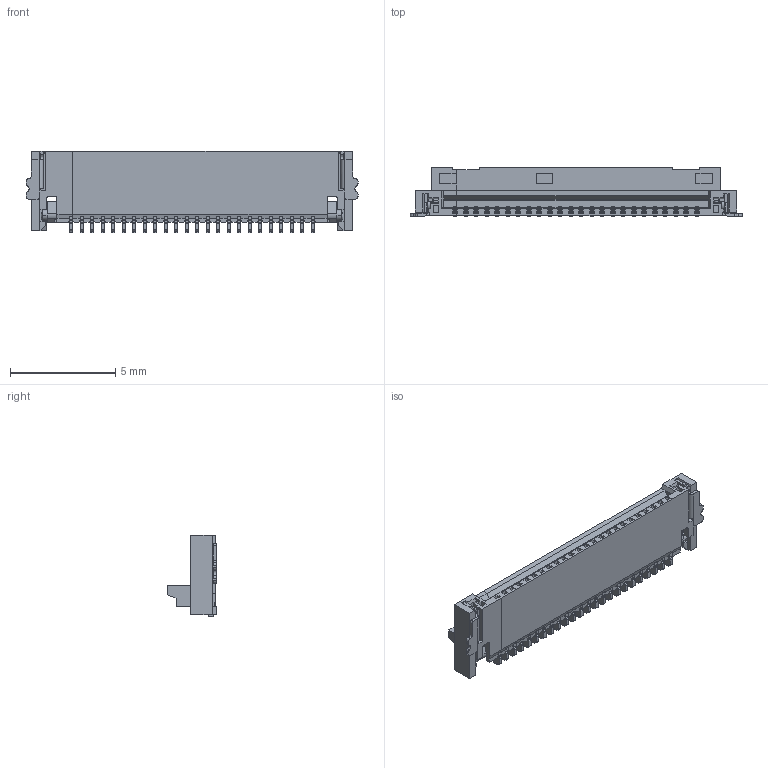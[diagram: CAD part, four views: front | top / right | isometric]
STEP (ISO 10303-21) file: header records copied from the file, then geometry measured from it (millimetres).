
FILE_DESCRIPTION (( 'STEP AP203' ), '1' );
FILE_NAME ('GT-F0511SR12-XXS0101.STEP', '2023-12-27T08:07:12', ( 'Microsoft' ), ( 'Microsoft' ), 'SwSTEP 2.0', 'SolidWorks 2023', '' );
FILE_SCHEMA (( 'CONFIG_CONTROL_DESIGN' ));
Products named in the file (7): GT-F0511SR12-XXS0101.stp; PRT0478_AF0.stp; ASM0211_AF0_ASM.stp; ASM0213_AF0_ASM.stp; PRT0477.stp; GT-F0511SR12-XXS0101; ASM0212_AF0_ASM.stp
Assembly tree (6 placements, depth 6):
  GT-F0511SR12-XXS0101
    GT-F0511SR12-XXS0101.stp
      ASM0211_AF0_ASM.stp
        ASM0212_AF0_ASM.stp
          ASM0213_AF0_ASM.stp
            PRT0478_AF0.stp
          PRT0477.stp
Bounding box: 15.8 x 2.32 x 3.9 mm (x, y, z)
Volume: 58.2 mm3; surface area: 340.7 mm2
Topology: 2 solids, 2 shells, 2902 faces, 8243 edges, 5475 vertices
Faces by surface type: plane 2118, cylinder 704, bspline 74, cone 6
Entity records: 98321 total; most frequent: CARTESIAN_POINT 21362, ORIENTED_EDGE 16484, DIRECTION 14944, EDGE_CURVE 8242, LINE 6610, VECTOR 6610, VERTEX_POINT 5475, AXIS2_PLACEMENT_3D 4167
